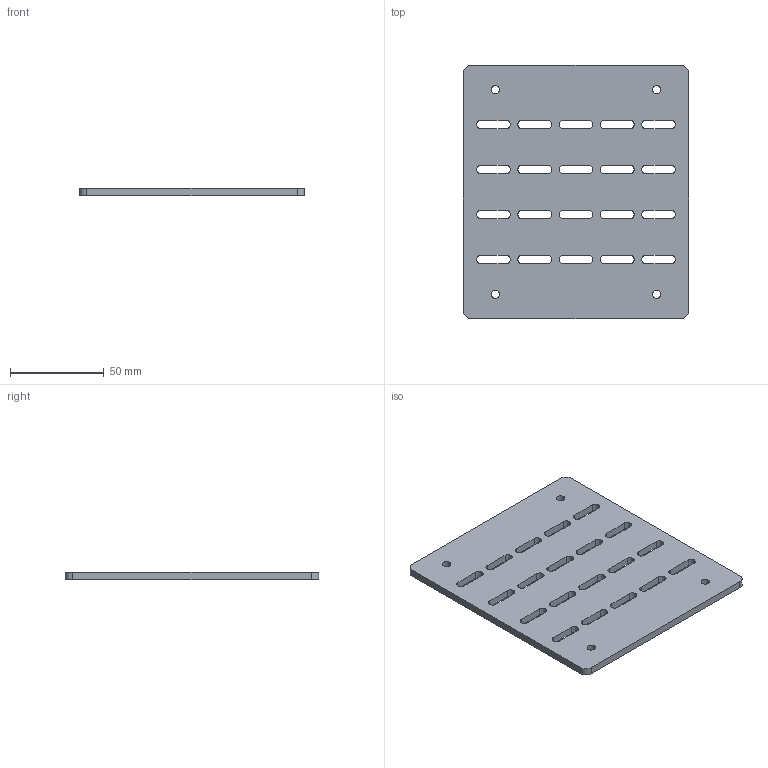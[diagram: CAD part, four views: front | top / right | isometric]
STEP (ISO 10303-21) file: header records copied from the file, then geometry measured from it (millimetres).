
FILE_DESCRIPTION(('Open CASCADE Model'),'2;1');
FILE_NAME('Open CASCADE Shape Model','2026-10-06T09:41:54',('Author'),( 'Open CASCADE'),'Open CASCADE STEP processor 7.8','Open CASCADE 7.8' ,'Unknown');
FILE_SCHEMA(('AUTOMOTIVE_DESIGN { 1 0 10303 214 1 1 1 1 }'));
Length unit declared in the file: millimetre
Products named in the file (1): Open CASCADE STEP translator 7.8 2
Bounding box: 120 x 135 x 4 mm (x, y, z)
Volume: 58358.2 mm3; surface area: 34708.8 mm2
Topology: 1 solids, 1 shells, 94 faces, 276 edges, 184 vertices
Faces by surface type: cylinder 48, plane 46
Full cylindrical faces by diameter (mm): 4.5 x4
Entity records: 6960 total; most frequent: CARTESIAN_POINT 1807, DIRECTION 864, ORIENTED_EDGE 552, PCURVE 552, DEFINITIONAL_REPRESENTATION 552, LINE 476, VECTOR 476, EDGE_CURVE 276
